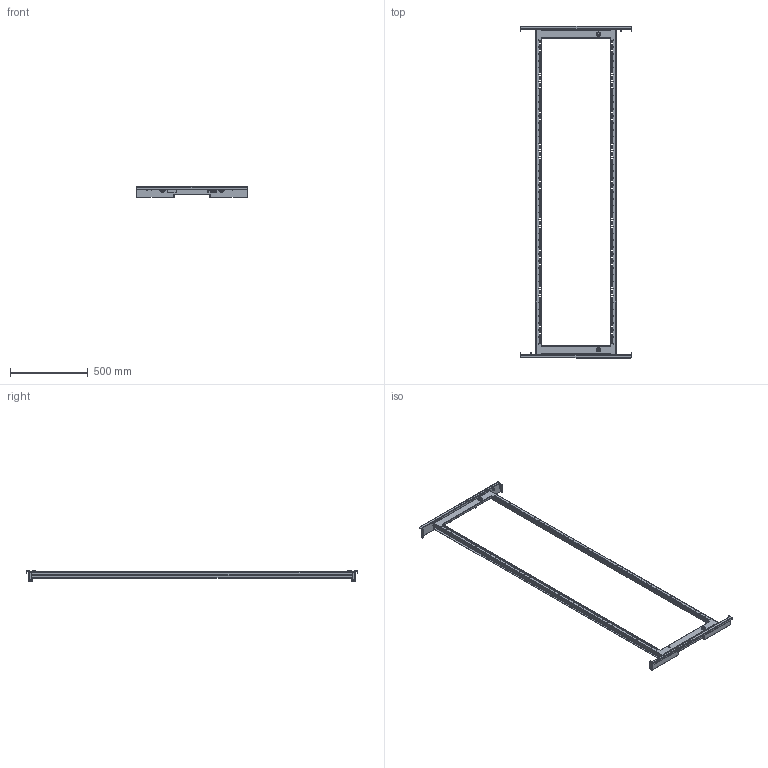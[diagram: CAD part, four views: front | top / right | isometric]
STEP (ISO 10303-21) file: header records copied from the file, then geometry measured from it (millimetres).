
FILE_DESCRIPTION (( 'STEP AP203' ), '1' );
FILE_NAME ('MC 220.80 IR Ðàìà 19'''' ïîâîðîòíàÿ.STEP', '2013-01-15T14:02:50', ( 'System' ), ( '' ), 'SwSTEP 2.0', 'SolidWorks 2012', '' );
FILE_SCHEMA (( 'CONFIG_CONTROL_DESIGN' ));
Products named in the file (1): MC 220.80 IR Ðàìà 19'''' ïîâîðîòíàÿ
Bounding box: 720.5 x 2138 x 68.85 mm (x, y, z)
Surface area: 1386648.6 mm2 (no closed solid volume)
Topology: 0 solids, 30 shells, 4319 faces, 12202 edges, 7954 vertices
Faces by surface type: plane 2373, cylinder 1746, bspline 104, cone 74, torus 22
Entity records: 149378 total; most frequent: CARTESIAN_POINT 33564, ORIENTED_EDGE 24364, DIRECTION 24102, EDGE_CURVE 12186, VECTOR 8058, LINE 8058, AXIS2_PLACEMENT_3D 8022, VERTEX_POINT 7954
